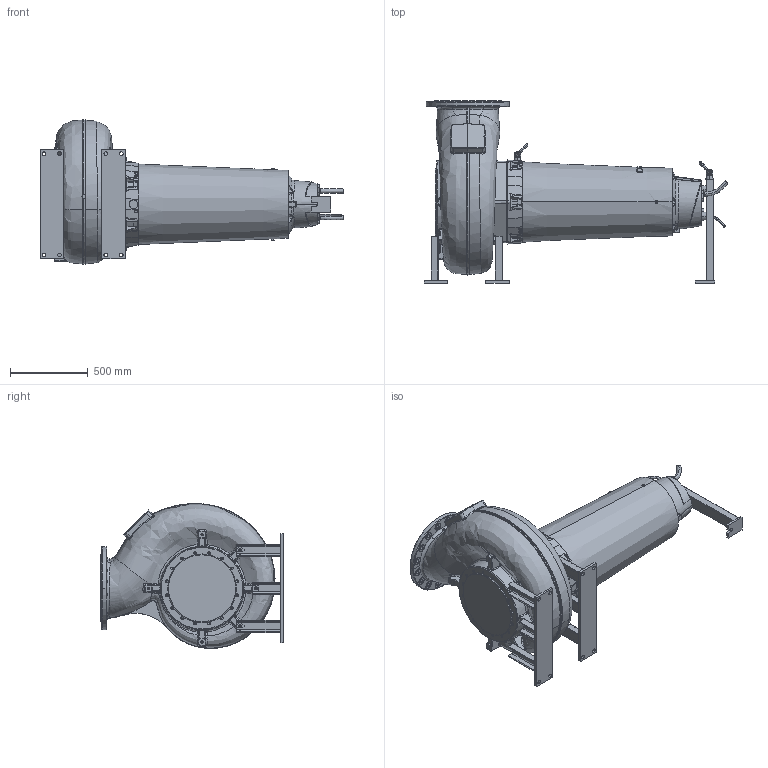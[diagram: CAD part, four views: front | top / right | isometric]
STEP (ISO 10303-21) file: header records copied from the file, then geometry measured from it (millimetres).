
FILE_DESCRIPTION (( 'STEP AP214' ), '1' );
FILE_NAME ('PE5_XFP351M-CH3_DRY HA_B_NG2.STEP', '2017-03-14T07:30:04', ( '' ), ( '' ), 'SwSTEP 2.0', 'SolidWorks 2017', '' );
FILE_SCHEMA (( 'AUTOMOTIVE_DESIGN' ));
Length unit declared in the file: millimetre
Products named in the file (1): PE5_XFP351M-CH3_DRY HA_B_NG2
Bounding box: 1951.08 x 1170.95 x 929.69 mm (x, y, z)
Volume: 474947124 mm3; surface area: 6110678.1 mm2
Topology: 6 solids, 6 shells, 1835 faces, 4717 edges, 2873 vertices
Faces by surface type: bspline 571, cylinder 488, plane 393, cone 187, torus 178, sphere 18
Entity records: 147623 total; most frequent: CARTESIAN_POINT 88148, ORIENTED_EDGE 9278, DIRECTION 6763, EDGE_CURVE 4639, VERTEX_POINT 2869, AXIS2_PLACEMENT_3D 2696, EDGE_LOOP 1960, UNCERTAINTY_MEASURE_WITH_UNIT 1843
